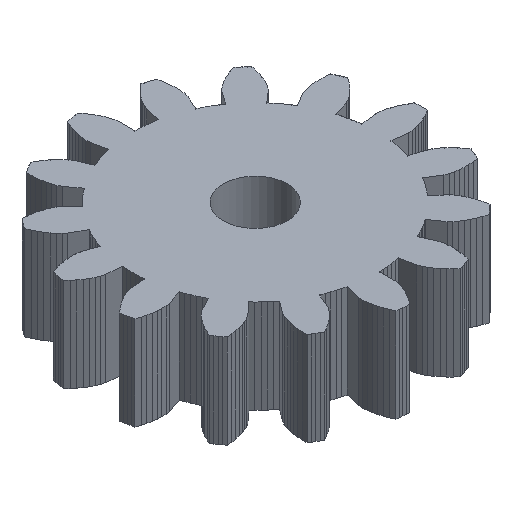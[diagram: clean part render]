
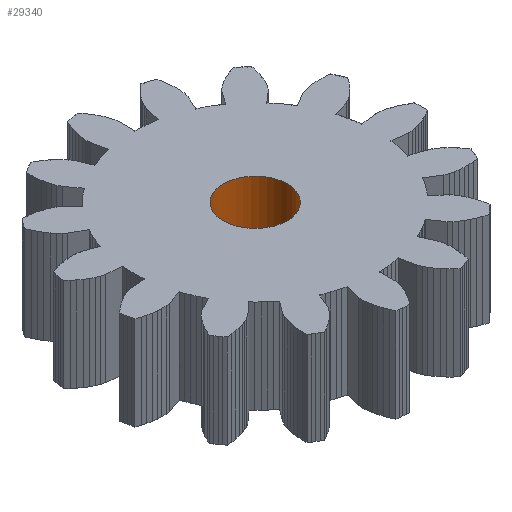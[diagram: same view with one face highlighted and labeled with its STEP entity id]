
A CAD part, isometric view. The second image highlights one B-rep face of the part: STEP entity #29340.
In plain terms, the highlighted cylindrical face has radius 2.05 mm (diameter 4.1 mm), a full revolution.
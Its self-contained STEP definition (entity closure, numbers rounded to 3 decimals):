
#72 = PLANE('',#73);
#73 = AXIS2_PLACEMENT_3D('',#74,#75,#76);
#74 = CARTESIAN_POINT('',(0.,0.,3.));
#75 = DIRECTION('',(-0.,-0.,1.));
#76 = DIRECTION('',(-1.,0.,0.));
#126 = PLANE('',#127);
#127 = AXIS2_PLACEMENT_3D('',#128,#129,#130);
#128 = CARTESIAN_POINT('',(0.,0.,-3.));
#129 = DIRECTION('',(-0.,-0.,1.));
#130 = DIRECTION('',(-1.,0.,0.));
#10702 = EDGE_CURVE('',#10703,#10703,#10705,.T.);
#10703 = VERTEX_POINT('',#10704);
#10704 = CARTESIAN_POINT('',(2.05,0.,-3.));
#10705 = SURFACE_CURVE('',#10706,(#10711,#10718),.PCURVE_S1.);
#10706 = CIRCLE('',#10707,2.05);
#10707 = AXIS2_PLACEMENT_3D('',#10708,#10709,#10710);
#10708 = CARTESIAN_POINT('',(0.,0.,-3.));
#10709 = DIRECTION('',(0.,0.,1.));
#10710 = DIRECTION('',(1.,-0.,-0.));
#10711 = PCURVE('',#126,#10712);
#10712 = DEFINITIONAL_REPRESENTATION('',(#10713),#10717);
#10713 = CIRCLE('',#10714,2.05);
#10714 = AXIS2_PLACEMENT_2D('',#10715,#10716);
#10715 = CARTESIAN_POINT('',(0.,0.));
#10716 = DIRECTION('',(-1.,0.));
#10717 = ( GEOMETRIC_REPRESENTATION_CONTEXT(2) 
PARAMETRIC_REPRESENTATION_CONTEXT() REPRESENTATION_CONTEXT('2D SPACE',''
  ) );
#10718 = PCURVE('',#10719,#10724);
#10719 = CYLINDRICAL_SURFACE('',#10720,2.05);
#10720 = AXIS2_PLACEMENT_3D('',#10721,#10722,#10723);
#10721 = CARTESIAN_POINT('',(0.,0.,-3.5));
#10722 = DIRECTION('',(-0.,0.,-1.));
#10723 = DIRECTION('',(1.,-0.,-0.));
#10724 = DEFINITIONAL_REPRESENTATION('',(#10725),#10729);
#10725 = LINE('',#10726,#10727);
#10726 = CARTESIAN_POINT('',(6.283,-0.5));
#10727 = VECTOR('',#10728,1.);
#10728 = DIRECTION('',(-1.,0.));
#10729 = ( GEOMETRIC_REPRESENTATION_CONTEXT(2) 
PARAMETRIC_REPRESENTATION_CONTEXT() REPRESENTATION_CONTEXT('2D SPACE',''
  ) );
#19293 = EDGE_CURVE('',#19294,#19294,#19296,.T.);
#19294 = VERTEX_POINT('',#19295);
#19295 = CARTESIAN_POINT('',(2.05,0.,3.));
#19296 = SURFACE_CURVE('',#19297,(#19302,#19309),.PCURVE_S1.);
#19297 = CIRCLE('',#19298,2.05);
#19298 = AXIS2_PLACEMENT_3D('',#19299,#19300,#19301);
#19299 = CARTESIAN_POINT('',(0.,0.,3.));
#19300 = DIRECTION('',(0.,0.,1.));
#19301 = DIRECTION('',(1.,-0.,-0.));
#19302 = PCURVE('',#72,#19303);
#19303 = DEFINITIONAL_REPRESENTATION('',(#19304),#19308);
#19304 = CIRCLE('',#19305,2.05);
#19305 = AXIS2_PLACEMENT_2D('',#19306,#19307);
#19306 = CARTESIAN_POINT('',(0.,0.));
#19307 = DIRECTION('',(-1.,0.));
#19308 = ( GEOMETRIC_REPRESENTATION_CONTEXT(2) 
PARAMETRIC_REPRESENTATION_CONTEXT() REPRESENTATION_CONTEXT('2D SPACE',''
  ) );
#19309 = PCURVE('',#10719,#19310);
#19310 = DEFINITIONAL_REPRESENTATION('',(#19311),#19315);
#19311 = LINE('',#19312,#19313);
#19312 = CARTESIAN_POINT('',(6.283,-6.5));
#19313 = VECTOR('',#19314,1.);
#19314 = DIRECTION('',(-1.,0.));
#19315 = ( GEOMETRIC_REPRESENTATION_CONTEXT(2) 
PARAMETRIC_REPRESENTATION_CONTEXT() REPRESENTATION_CONTEXT('2D SPACE',''
  ) );
#29340 = ADVANCED_FACE('',(#29341),#10719,.F.);
#29341 = FACE_BOUND('',#29342,.F.);
#29342 = EDGE_LOOP('',(#29343,#29344,#29365,#29366));
#29343 = ORIENTED_EDGE('',*,*,#10702,.T.);
#29344 = ORIENTED_EDGE('',*,*,#29345,.T.);
#29345 = EDGE_CURVE('',#10703,#19294,#29346,.T.);
#29346 = SEAM_CURVE('',#29347,(#29351,#29358),.PCURVE_S1.);
#29347 = LINE('',#29348,#29349);
#29348 = CARTESIAN_POINT('',(2.05,0.,-3.5));
#29349 = VECTOR('',#29350,1.);
#29350 = DIRECTION('',(-0.,-0.,1.));
#29351 = PCURVE('',#10719,#29352);
#29352 = DEFINITIONAL_REPRESENTATION('',(#29353),#29357);
#29353 = LINE('',#29354,#29355);
#29354 = CARTESIAN_POINT('',(6.283,0.));
#29355 = VECTOR('',#29356,1.);
#29356 = DIRECTION('',(0.,-1.));
#29357 = ( GEOMETRIC_REPRESENTATION_CONTEXT(2) 
PARAMETRIC_REPRESENTATION_CONTEXT() REPRESENTATION_CONTEXT('2D SPACE',''
  ) );
#29358 = PCURVE('',#10719,#29359);
#29359 = DEFINITIONAL_REPRESENTATION('',(#29360),#29364);
#29360 = LINE('',#29361,#29362);
#29361 = CARTESIAN_POINT('',(0.,0.));
#29362 = VECTOR('',#29363,1.);
#29363 = DIRECTION('',(0.,-1.));
#29364 = ( GEOMETRIC_REPRESENTATION_CONTEXT(2) 
PARAMETRIC_REPRESENTATION_CONTEXT() REPRESENTATION_CONTEXT('2D SPACE',''
  ) );
#29365 = ORIENTED_EDGE('',*,*,#19293,.F.);
#29366 = ORIENTED_EDGE('',*,*,#29345,.F.);
